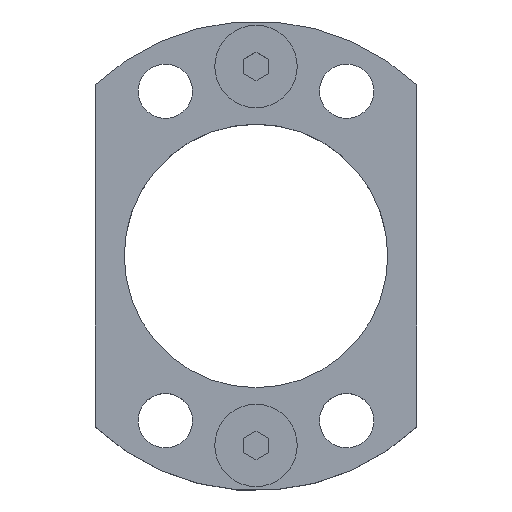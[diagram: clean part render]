
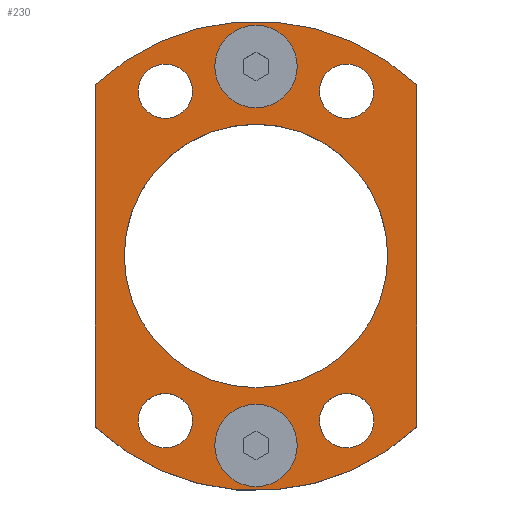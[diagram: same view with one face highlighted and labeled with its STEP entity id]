
A CAD part, top view. The second image highlights one B-rep face of the part: STEP entity #230.
In plain terms, the highlighted planar face has unit normal (0, 0, 1).
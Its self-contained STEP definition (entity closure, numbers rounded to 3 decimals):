
#143=FACE_BOUND('',#445,.T.);
#144=FACE_BOUND('',#446,.T.);
#145=FACE_BOUND('',#447,.T.);
#146=FACE_BOUND('',#448,.T.);
#147=FACE_BOUND('',#449,.T.);
#148=FACE_BOUND('',#450,.T.);
#149=FACE_BOUND('',#451,.T.);
#150=FACE_BOUND('',#452,.T.);
#164=PLANE('',#1603);
#230=ADVANCED_FACE('',(#143,#144,#145,#146,#147,#148,#149,#150),#164,.T.);
#445=EDGE_LOOP('',(#809,#810,#811,#812));
#446=EDGE_LOOP('',(#813,#814));
#447=EDGE_LOOP('',(#815,#816));
#448=EDGE_LOOP('',(#817,#818));
#449=EDGE_LOOP('',(#819,#820));
#450=EDGE_LOOP('',(#821,#822));
#451=EDGE_LOOP('',(#823,#824));
#452=EDGE_LOOP('',(#825,#826));
#524=CIRCLE('',#1540,28.5);
#526=CIRCLE('',#1544,28.5);
#528=CIRCLE('',#1548,3.3);
#530=CIRCLE('',#1551,3.3);
#532=CIRCLE('',#1554,3.3);
#534=CIRCLE('',#1557,3.3);
#536=CIRCLE('',#1560,3.3);
#538=CIRCLE('',#1563,3.3);
#540=CIRCLE('',#1566,3.3);
#542=CIRCLE('',#1569,3.3);
#547=CIRCLE('',#1577,5.);
#548=CIRCLE('',#1579,5.);
#550=CIRCLE('',#1582,16.);
#552=CIRCLE('',#1585,16.);
#561=CIRCLE('',#1601,5.);
#562=CIRCLE('',#1602,5.);
#809=ORIENTED_EDGE('',*,*,#1149,.T.);
#810=ORIENTED_EDGE('',*,*,#1158,.T.);
#811=ORIENTED_EDGE('',*,*,#1155,.T.);
#812=ORIENTED_EDGE('',*,*,#1152,.T.);
#813=ORIENTED_EDGE('',*,*,#1211,.F.);
#814=ORIENTED_EDGE('',*,*,#1212,.F.);
#815=ORIENTED_EDGE('',*,*,#1192,.F.);
#816=ORIENTED_EDGE('',*,*,#1190,.F.);
#817=ORIENTED_EDGE('',*,*,#1161,.T.);
#818=ORIENTED_EDGE('',*,*,#1164,.T.);
#819=ORIENTED_EDGE('',*,*,#1167,.T.);
#820=ORIENTED_EDGE('',*,*,#1170,.T.);
#821=ORIENTED_EDGE('',*,*,#1173,.T.);
#822=ORIENTED_EDGE('',*,*,#1176,.T.);
#823=ORIENTED_EDGE('',*,*,#1179,.T.);
#824=ORIENTED_EDGE('',*,*,#1182,.T.);
#825=ORIENTED_EDGE('',*,*,#1195,.T.);
#826=ORIENTED_EDGE('',*,*,#1198,.T.);
#1005=VERTEX_POINT('',#2226);
#1006=VERTEX_POINT('',#2228);
#1008=VERTEX_POINT('',#2234);
#1010=VERTEX_POINT('',#2240);
#1013=VERTEX_POINT('',#2250);
#1014=VERTEX_POINT('',#2252);
#1017=VERTEX_POINT('',#2262);
#1018=VERTEX_POINT('',#2264);
#1021=VERTEX_POINT('',#2274);
#1022=VERTEX_POINT('',#2276);
#1025=VERTEX_POINT('',#2286);
#1026=VERTEX_POINT('',#2288);
#1031=VERTEX_POINT('',#2307);
#1032=VERTEX_POINT('',#2309);
#1035=VERTEX_POINT('',#2318);
#1036=VERTEX_POINT('',#2320);
#1045=VERTEX_POINT('',#2353);
#1046=VERTEX_POINT('',#2354);
#1149=EDGE_CURVE('',#1006,#1005,#524,.T.);
#1152=EDGE_CURVE('',#1008,#1006,#1306,.T.);
#1155=EDGE_CURVE('',#1010,#1008,#526,.T.);
#1158=EDGE_CURVE('',#1005,#1010,#1310,.T.);
#1161=EDGE_CURVE('',#1014,#1013,#528,.T.);
#1164=EDGE_CURVE('',#1013,#1014,#530,.T.);
#1167=EDGE_CURVE('',#1018,#1017,#532,.T.);
#1170=EDGE_CURVE('',#1017,#1018,#534,.T.);
#1173=EDGE_CURVE('',#1022,#1021,#536,.T.);
#1176=EDGE_CURVE('',#1021,#1022,#538,.T.);
#1179=EDGE_CURVE('',#1026,#1025,#540,.T.);
#1182=EDGE_CURVE('',#1025,#1026,#542,.T.);
#1190=EDGE_CURVE('',#1031,#1032,#547,.T.);
#1192=EDGE_CURVE('',#1032,#1031,#548,.T.);
#1195=EDGE_CURVE('',#1036,#1035,#550,.T.);
#1198=EDGE_CURVE('',#1035,#1036,#552,.T.);
#1211=EDGE_CURVE('',#1045,#1046,#561,.T.);
#1212=EDGE_CURVE('',#1046,#1045,#562,.T.);
#1306=LINE('',#2233,#1406);
#1310=LINE('',#2244,#1410);
#1406=VECTOR('',#1805,1.);
#1410=VECTOR('',#1817,1.);
#1540=AXIS2_PLACEMENT_3D('',#2227,#1799,#1800);
#1544=AXIS2_PLACEMENT_3D('',#2239,#1811,#1812);
#1548=AXIS2_PLACEMENT_3D('',#2251,#1823,#1824);
#1551=AXIS2_PLACEMENT_3D('',#2256,#1830,#1831);
#1554=AXIS2_PLACEMENT_3D('',#2263,#1837,#1838);
#1557=AXIS2_PLACEMENT_3D('',#2268,#1844,#1845);
#1560=AXIS2_PLACEMENT_3D('',#2275,#1851,#1852);
#1563=AXIS2_PLACEMENT_3D('',#2280,#1858,#1859);
#1566=AXIS2_PLACEMENT_3D('',#2287,#1865,#1866);
#1569=AXIS2_PLACEMENT_3D('',#2292,#1872,#1873);
#1577=AXIS2_PLACEMENT_3D('',#2308,#1891,#1892);
#1579=AXIS2_PLACEMENT_3D('',#2312,#1896,#1897);
#1582=AXIS2_PLACEMENT_3D('',#2319,#1903,#1904);
#1585=AXIS2_PLACEMENT_3D('',#2324,#1910,#1911);
#1601=AXIS2_PLACEMENT_3D('',#2352,#1946,#1947);
#1602=AXIS2_PLACEMENT_3D('',#2355,#1948,#1949);
#1603=AXIS2_PLACEMENT_3D('',#2356,#1950,#1951);
#1799=DIRECTION('',(0.,0.,1.));
#1800=DIRECTION('',(0.776,0.631,0.));
#1805=DIRECTION('',(0.,1.,0.));
#1811=DIRECTION('',(0.,0.,1.));
#1812=DIRECTION('',(-0.776,-0.631,0.));
#1817=DIRECTION('',(0.,-1.,0.));
#1823=DIRECTION('',(0.,0.,-1.));
#1824=DIRECTION('',(-1.,0.,0.));
#1830=DIRECTION('',(0.,0.,-1.));
#1831=DIRECTION('',(1.,0.,0.));
#1837=DIRECTION('',(0.,0.,-1.));
#1838=DIRECTION('',(-1.,0.,0.));
#1844=DIRECTION('',(0.,0.,-1.));
#1845=DIRECTION('',(1.,0.,0.));
#1851=DIRECTION('',(0.,0.,-1.));
#1852=DIRECTION('',(-1.,0.,0.));
#1858=DIRECTION('',(0.,0.,-1.));
#1859=DIRECTION('',(1.,0.,0.));
#1865=DIRECTION('',(0.,0.,-1.));
#1866=DIRECTION('',(-1.,0.,0.));
#1872=DIRECTION('',(0.,0.,-1.));
#1873=DIRECTION('',(1.,0.,0.));
#1891=DIRECTION('',(0.,0.,1.));
#1892=DIRECTION('',(1.,0.,0.));
#1896=DIRECTION('',(0.,0.,1.));
#1897=DIRECTION('',(-1.,0.,0.));
#1903=DIRECTION('',(0.,0.,-1.));
#1904=DIRECTION('',(-1.,0.,0.));
#1910=DIRECTION('',(0.,0.,-1.));
#1911=DIRECTION('',(1.,0.,0.));
#1946=DIRECTION('',(0.,0.,1.));
#1947=DIRECTION('',(-1.,0.,0.));
#1948=DIRECTION('',(0.,0.,1.));
#1949=DIRECTION('',(1.,0.,0.));
#1950=DIRECTION('',(0.,0.,1.));
#1951=DIRECTION('',(0.729,-0.684,0.));
#2226=CARTESIAN_POINT('',(-19.5,20.785,11.));
#2227=CARTESIAN_POINT('',(0.,0.,11.));
#2228=CARTESIAN_POINT('',(19.5,20.785,11.));
#2233=CARTESIAN_POINT('',(19.5,20.785,11.));
#2234=CARTESIAN_POINT('',(19.5,-20.785,11.));
#2239=CARTESIAN_POINT('',(0.,0.,11.));
#2240=CARTESIAN_POINT('',(-19.5,-20.785,11.));
#2244=CARTESIAN_POINT('',(-19.5,20.785,11.));
#2250=CARTESIAN_POINT('',(11.,16.7,11.));
#2251=CARTESIAN_POINT('',(11.,20.,11.));
#2252=CARTESIAN_POINT('',(11.,23.3,11.));
#2256=CARTESIAN_POINT('',(11.,20.,11.));
#2262=CARTESIAN_POINT('',(-11.,16.7,11.));
#2263=CARTESIAN_POINT('',(-11.,20.,11.));
#2264=CARTESIAN_POINT('',(-11.,23.3,11.));
#2268=CARTESIAN_POINT('',(-11.,20.,11.));
#2274=CARTESIAN_POINT('',(11.,-23.3,11.));
#2275=CARTESIAN_POINT('',(11.,-20.,11.));
#2276=CARTESIAN_POINT('',(11.,-16.7,11.));
#2280=CARTESIAN_POINT('',(11.,-20.,11.));
#2286=CARTESIAN_POINT('',(-11.,-23.3,11.));
#2287=CARTESIAN_POINT('',(-11.,-20.,11.));
#2288=CARTESIAN_POINT('',(-11.,-16.7,11.));
#2292=CARTESIAN_POINT('',(-11.,-20.,11.));
#2307=CARTESIAN_POINT('',(0.,-18.,11.));
#2308=CARTESIAN_POINT('',(0.,-23.,11.));
#2309=CARTESIAN_POINT('',(0.,-28.,11.));
#2312=CARTESIAN_POINT('',(0.,-23.,11.));
#2318=CARTESIAN_POINT('',(0.,-16.,11.));
#2319=CARTESIAN_POINT('',(0.,0.,11.));
#2320=CARTESIAN_POINT('',(0.,16.,11.));
#2324=CARTESIAN_POINT('',(0.,0.,11.));
#2352=CARTESIAN_POINT('',(0.,23.,11.));
#2353=CARTESIAN_POINT('',(0.,18.,11.));
#2354=CARTESIAN_POINT('',(0.,28.,11.));
#2355=CARTESIAN_POINT('',(0.,23.,11.));
#2356=CARTESIAN_POINT('',(19.5,20.785,11.));
